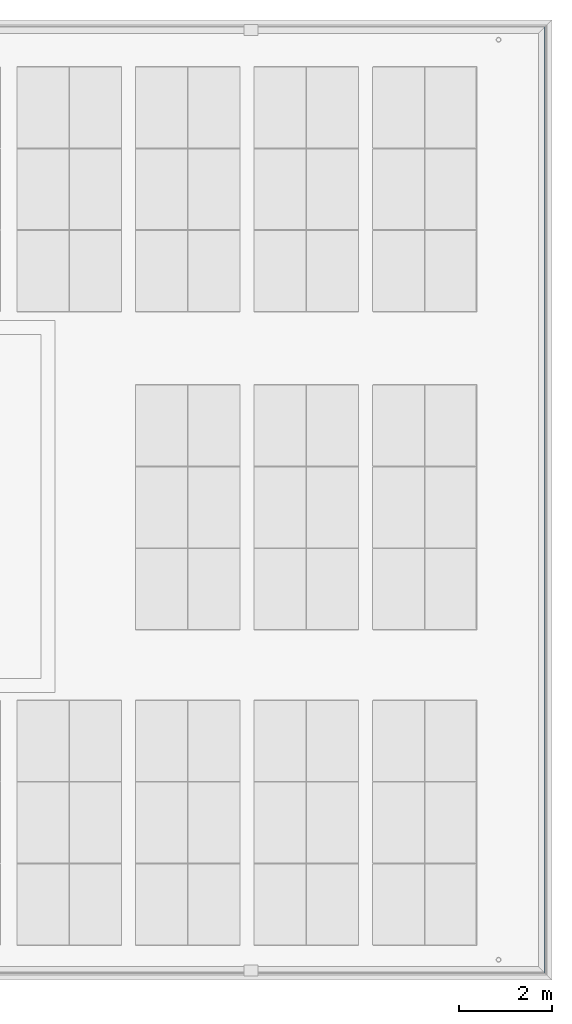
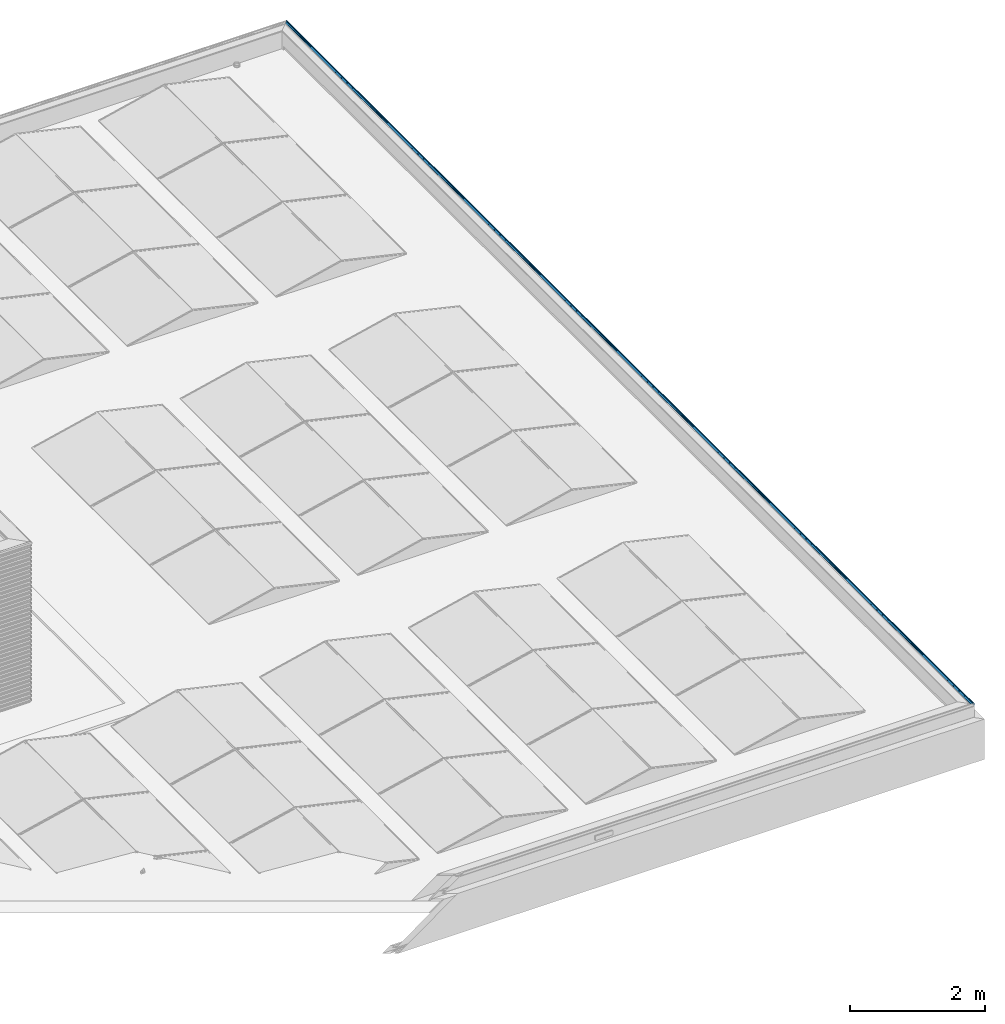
# One storey, part 44 of 63: 1 building element part, 1 element without a shape of its own.
"""IFC2X3 building model written with IfcOpenShell, lengths in millimetres."""

import ifcopenshell
import ifcopenshell.guid

model = None  # the IFC model being written
_history = None  # IfcOwnerHistory: only IFC2X3 demands one
_inside = {}  # id of a spatial element -> (the spatial element, [elements in it])
_under = {}  # id of a project, library or spatial element -> (it, [spatial elements below it])
_declared = {}  # id of a project -> (the project, [libraries it declares])
_typed = {}  # id of a type object -> (the type object, [elements of that type])
_made_of = {}  # id of a material, layer set ... -> (it, [elements and type objects made of it])


def new_model(schema):
    """Start an empty IFC model of exactly this schema.

    Asked for "IFC4X3", IfcOpenShell would pick the latest addendum, in which some entities
    have other attributes; the version numbers below select the first issue.
    IFC2X3 requires an IfcOwnerHistory on every rooted entity: one is made here for all.
    """
    global model, _history
    if schema == "IFC4X3":
        model = ifcopenshell.file(schema_version=(4, 3, 0, 0))
    else:
        model = ifcopenshell.file(schema=schema)
    _inside.clear()
    _under.clear()
    _declared.clear()
    _typed.clear()
    _made_of.clear()
    _history = None
    if model.schema == "IFC2X3":
        org = make("IfcOrganization", Name="unknown")
        user = make(
            "IfcPersonAndOrganization",
            ThePerson=make("IfcPerson", FamilyName="unknown"),
            TheOrganization=org,
        )
        app = make(
            "IfcApplication",
            ApplicationDeveloper=org,
            Version="unknown",
            ApplicationFullName="unknown",
            ApplicationIdentifier="unknown",
        )
        _history = make(
            "IfcOwnerHistory",
            OwningUser=user,
            OwningApplication=app,
            ChangeAction="ADDED",
            CreationDate=0,
        )
    return model


def make(cls, **values):
    """One entity of the class cls with the attributes given. An attribute that is None is left unset."""
    return model.create_entity(
        cls, **{name: value for name, value in values.items() if value is not None}
    )


def entity(cls, *values):
    """Any entity or typed value of the class cls, its attributes in the order of the schema. None: left unset."""
    e = model.create_entity(cls)
    for i, value in enumerate(values):
        if value is not None:
            e[i] = value
    return e


def rooted(cls, **values):
    """An entity with a GlobalId (a new one), such as an element, a storey or a relation."""
    return make(cls, GlobalId=ifcopenshell.guid.new(), OwnerHistory=_history, **values)


def si_unit(unit_type, name, prefix=None):
    """IfcSIUnit, for example si_unit("LENGTHUNIT", "METRE", prefix="MILLI")."""
    return make("IfcSIUnit", UnitType=unit_type, Prefix=prefix, Name=name)


def converted_unit(unit_type, name, factor, base, dimensions=None, offset=None):
    """IfcConversionBasedUnit, such as the inch: factor (a typed value) times the base unit."""
    return make(
        "IfcConversionBasedUnit"
        if offset is None
        else "IfcConversionBasedUnitWithOffset",
        ConversionOffset=offset,
        Dimensions=None
        if dimensions is None
        else entity("IfcDimensionalExponents", *dimensions),
        UnitType=unit_type,
        Name=name,
        ConversionFactor=make(
            "IfcMeasureWithUnit", ValueComponent=factor, UnitComponent=base
        ),
    )


def derived_unit(unit_type, elements):
    """IfcDerivedUnit: a product of units, each with its exponent."""
    return make(
        "IfcDerivedUnit",
        Elements=[
            make("IfcDerivedUnitElement", Unit=unit, Exponent=power)
            for unit, power in elements
        ],
        UnitType=unit_type,
    )


def money_unit(currency):
    """IfcMonetaryUnit."""
    return make("IfcMonetaryUnit", Currency=currency)


def assignment(units):
    """IfcUnitAssignment: the units of a project."""
    return None if units is None else make("IfcUnitAssignment", Units=units)


def point(xyz):
    """IfcCartesianPoint."""
    return None if xyz is None else make("IfcCartesianPoint", Coordinates=xyz)


def direction(xyz):
    """IfcDirection."""
    return None if xyz is None else make("IfcDirection", DirectionRatios=xyz)


def frame(location, z_axis=None, x_axis=None):
    """IfcAxis2Placement3D, a coordinate frame: its origin and axes. An axis left out is left unset."""
    return make(
        "IfcAxis2Placement3D",
        Location=point(location),
        Axis=direction(z_axis),
        RefDirection=direction(x_axis),
    )


def origin_with_axes():
    """The frame at (0, 0, 0) with the z axis (0, 0, 1) and the x axis (1, 0, 0) written out."""
    return frame((0.0, 0.0, 0.0), z_axis=(0.0, 0.0, 1.0), x_axis=(1.0, 0.0, 0.0))


def place(relative_to, where):
    """IfcLocalPlacement: puts the frame where relative to a parent placement (None: the world)."""
    return make(
        "IfcLocalPlacement", PlacementRelTo=relative_to, RelativePlacement=where
    )


def context(
    kind, dimensions, precision=None, world=None, true_north=None, identifier=None
):
    """IfcGeometricRepresentationContext, for example the 3D "Model" context."""
    return make(
        "IfcGeometricRepresentationContext",
        ContextIdentifier=identifier,
        ContextType=kind,
        CoordinateSpaceDimension=dimensions,
        Precision=precision,
        WorldCoordinateSystem=world,
        TrueNorth=true_north,
    )


def subcontext(parent, identifier, kind, view, scale=None):
    """IfcGeometricRepresentationSubContext, for example "Body" below "Model"."""
    return make(
        "IfcGeometricRepresentationSubContext",
        ContextIdentifier=identifier,
        ContextType=kind,
        ParentContext=parent,
        TargetScale=scale,
        TargetView=view,
    )


def project(units=None, contexts=None):
    """IfcProject with its units and contexts."""
    return rooted(
        "IfcProject",
        Name="project",
        RepresentationContexts=contexts,
        UnitsInContext=assignment(units),
    )


def spatial(cls, under=None, at=None, **own):
    """A site, building, storey or space (cls), placed at a placement, below another one or the project."""
    s = rooted(cls, ObjectPlacement=at, **own)
    if under is not None:
        _under.setdefault(under.id(), (under, []))[1].append(s)
    return s


def faces_of(points, faces, orient=None, outer=None):
    """IfcFace entities. A face is a list of loops; a loop is a list of indices into points, from 0.

    orient and outer hold one flag for each loop. By default every Orientation is true, the
    first loop of a face is its IfcFaceOuterBound and the others are IfcFaceBound.
    """
    made = []
    for i, loops in enumerate(faces):
        bounds = []
        for j, loop in enumerate(loops):
            is_outer = j == 0 if outer is None else outer[i][j]
            bounds.append(
                make(
                    "IfcFaceOuterBound" if is_outer else "IfcFaceBound",
                    Bound=make("IfcPolyLoop", Polygon=[points[k] for k in loop]),
                    Orientation=True if orient is None else orient[i][j],
                )
            )
        made.append(make("IfcFace", Bounds=bounds))
    return made


def faceted_brep(points, faces, orient=None, outer=None, voids=None):
    """IfcFacetedBrep: a solid bounded by flat faces; with voids (closed shells), ...WithVoids."""
    shared = [point(p) for p in points]
    hull = make("IfcClosedShell", CfsFaces=faces_of(shared, faces, orient, outer))
    if voids is None:
        return make("IfcFacetedBrep", Outer=hull)
    return make(
        "IfcFacetedBrepWithVoids",
        Outer=hull,
        Voids=[
            make(cls, CfsFaces=faces_of(shared, fs, o, b)) for cls, fs, o, b in voids
        ],
    )


def shape(context_of_items, identifier, shape_type, items):
    """IfcShapeRepresentation: the items that make up one representation, for example the "Body"."""
    return make(
        "IfcShapeRepresentation",
        ContextOfItems=context_of_items,
        RepresentationIdentifier=identifier,
        RepresentationType=shape_type,
        Items=items,
    )


def material(Name=None, Category=None):
    """IfcMaterial."""
    return make("IfcMaterial", Name=Name, Category=Category)


def made_of(thing, what):
    """Note that an element or type object is made of a material, layer set ...; save() writes the relation."""
    if what is not None:
        _made_of.setdefault(what.id(), (what, []))[1].append(thing)
    return thing


def type_object(cls, material=None, **own):
    """A type object (cls), such as IfcWallType, which elements share."""
    return made_of(rooted(cls, **own), material)


def element(
    cls,
    number,
    at=None,
    inside=None,
    cuts=None,
    type_object=None,
    material=None,
    context=None,
    identifier="Body",
    shape_type=None,
    held_by="IfcProductDefinitionShape",
    body=None,
    shapes=None,
    **own,
):
    """One element of the class cls, such as IfcWall. Its Tag is "e" and its number.

    at: its placement. inside: the storey or other place that contains it. cuts: it is an
    opening in that element (IfcRelVoidsElement). A single representation is given by context,
    identifier, shape_type and body (its items); several are given by shapes. held_by: the class
    of the entity that holds the representations. save() writes the other relations.
    """
    e = rooted(cls, Tag="e%d" % number, ObjectPlacement=at, **own)
    if body is not None:
        shapes = [shape(context, identifier, shape_type, body)]
    if shapes is not None:
        e.Representation = make(held_by, Representations=shapes)
    if inside is not None:
        _inside.setdefault(inside.id(), (inside, []))[1].append(e)
    if cuts is not None:
        rooted(
            "IfcRelVoidsElement", RelatingBuildingElement=cuts, RelatedOpeningElement=e
        )
    if type_object is not None:
        _typed.setdefault(type_object.id(), (type_object, []))[1].append(e)
    return made_of(e, material)


def aggregate(whole, parts):
    """IfcRelAggregates: a whole, such as a stair, and the parts it consists of."""
    return rooted("IfcRelAggregates", RelatingObject=whole, RelatedObjects=parts)


def save(model, path):
    """Write the relations noted so far, then the file.

    IfcRelAggregates (storeys below a building ...), IfcRelContainedInSpatialStructure (elements
    in a storey), IfcRelDefinesByType, IfcRelAssociatesMaterial and IfcRelDeclares: one each for
    every whole, place, type object, material and project.
    """
    for whole, parts in _under.values():
        aggregate(whole, parts)
    for where, things in _inside.values():
        rooted(
            "IfcRelContainedInSpatialStructure",
            RelatedElements=things,
            RelatingStructure=where,
        )
    for kind, things in _typed.values():
        rooted("IfcRelDefinesByType", RelatedObjects=things, RelatingType=kind)
    for what, things in _made_of.values():
        rooted("IfcRelAssociatesMaterial", RelatedObjects=things, RelatingMaterial=what)
    for by, libraries in _declared.values():
        rooted("IfcRelDeclares", RelatingContext=by, RelatedDefinitions=libraries)
    model.write(path)


model = new_model("IFC2X3")

# Units and contexts
model_context = context("Model", 3, precision=0.01, world=origin_with_axes(), true_north=direction((0.0, 1.0)))
body_context = subcontext(model_context, "Body", "Model", "MODEL_VIEW")
ifc_project = project(units=[si_unit("LENGTHUNIT", "METRE", prefix="MILLI"), si_unit("AREAUNIT", "SQUARE_METRE"), si_unit("VOLUMEUNIT", "CUBIC_METRE"), converted_unit("PLANEANGLEUNIT", "DEGREE", entity("IfcPlaneAngleMeasure", 0.0174532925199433), si_unit("PLANEANGLEUNIT", "RADIAN"), dimensions=[0, 0, 0, 0, 0, 0, 0]), money_unit("EUR"), converted_unit("TIMEUNIT", "Year", entity("IfcTimeMeasure", 31557600.0), si_unit("TIMEUNIT", "SECOND"), dimensions=[0, 0, 1, 0, 0, 0, 0]), si_unit("MASSUNIT", "GRAM", prefix="KILO"), si_unit("THERMODYNAMICTEMPERATUREUNIT", "DEGREE_CELSIUS"), si_unit("LUMINOUSINTENSITYUNIT", "LUMEN"), si_unit("ENERGYUNIT", "JOULE", prefix="MEGA"), derived_unit("THERMALCONDUCTANCEUNIT", [(si_unit("POWERUNIT", "WATT"), 1), (si_unit("LENGTHUNIT", "METRE"), -1), (si_unit("THERMODYNAMICTEMPERATUREUNIT", "KELVIN"), -1)]), derived_unit("SPECIFICHEATCAPACITYUNIT", [(si_unit("ENERGYUNIT", "JOULE"), 1), (si_unit("MASSUNIT", "GRAM", prefix="KILO"), -1), (si_unit("THERMODYNAMICTEMPERATUREUNIT", "KELVIN"), -1)]), derived_unit("MASSDENSITYUNIT", [(si_unit("MASSUNIT", "GRAM", prefix="KILO"), 1), (si_unit("VOLUMEUNIT", "CUBIC_METRE"), -1)])], contexts=[model_context])

# Site, building, storey
site_placement = place(None, origin_with_axes())
site = spatial("IfcSite", under=ifc_project, at=site_placement, Name="<site naam>", CompositionType="ELEMENT")
building_placement = place(site_placement, origin_with_axes())
building = spatial("IfcBuilding", under=site, at=building_placement, Name="<Naam gebouw>", CompositionType="ELEMENT")
storey_placement = place(building_placement, frame((0.0, 0.0, 12770.0), z_axis=(0.0, 0.0, 1.0), x_axis=(1.0, 0.0, 0.0)))
storey = spatial("IfcBuildingStorey", under=building, at=storey_placement, Name="04 4e verdieping", CompositionType="ELEMENT", Elevation=12770.0)

# Beam, building element part
beam_type = type_object("IfcBeamType", Name="Aluminium daktrim 45 x 250", PredefinedType="BEAM")
beam_placement = place(storey_placement, frame((70369.99999757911, -324.9999975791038, -14.59999999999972), z_axis=(0.0, 0.0, 1.0), x_axis=(1.0, 0.0, 0.0)))
beam = element("IfcBeam", 1, at=beam_placement, inside=storey, type_object=beam_type, Name="47_Balk_Aluminium", ObjectType="BEAM")
ifc_material = material(Name="aluminium")
building_element_part_placement = place(beam_placement, origin_with_axes())
building_element_part = element("IfcBuildingElementPart", 2, at=building_element_part_placement, material=ifc_material, Name="aluminium", context=body_context, shape_type="Brep", body=[
    faceted_brep([(-121.4991945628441, 20528.50080059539, 294.0656451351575), (-122.2068758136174, 20527.79311934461, 293.7721760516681), (-122.2068758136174, 122.2068758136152, 293.7721760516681), (-121.4991945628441, 121.4991945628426, 294.0656451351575), (-110.9991946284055, 20539.00080052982, 294.0656451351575), (-110.2920878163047, 20539.70790734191, 293.7727519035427), (-109.9991945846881, 20540.00080057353, 293.0656450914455), (-109.9991945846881, 20540.00080057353, 250.0656451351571), (-110.2920878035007, 20539.70790735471, 249.3585383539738), (-110.9991945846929, 20539.00080057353, 249.0656451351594), (-111.4991731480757, 20538.50082201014, 249.1996073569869), (-117.6977781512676, 20532.30221700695, 252.7781690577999), (-117.9774779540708, 20532.02251720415, 253.1426342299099), (-117.9175736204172, 20532.08242153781, 253.598132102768), (-117.5531500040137, 20532.44684515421, 253.8778860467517), (-117.0976432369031, 20532.90235192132, 253.8180493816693), (-113.8976320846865, 20536.10236307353, 251.9718951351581), (-113.8976320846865, 20536.10236307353, 252.565645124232), (-113.7511854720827, 20536.24880968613, 252.9191985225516), (-113.3976320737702, 20536.60236308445, 253.0656451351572), (-113.1984133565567, 20536.80158180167, 253.0656451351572), (-112.8448599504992, 20537.15513520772, 252.9191985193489), (-112.698413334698, 20537.30158182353, 252.5656451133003), (-112.698413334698, 20537.30158182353, 251.278535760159), (-111.948916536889, 20538.05107862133, 250.8452329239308), (-111.6116899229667, 20538.38830523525, 250.7856033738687), (-111.3150643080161, 20538.68493085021, 250.9567486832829), (-111.197910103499, 20538.80208505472, 251.278544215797), (-111.1984133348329, 20538.80158182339, 281.0656535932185), (-111.3448629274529, 20538.65513223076, 281.419201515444), (-111.6984133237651, 20538.30158183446, 281.5656451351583), (-112.1984133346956, 20537.80158182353, 281.5656451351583), (-112.5519667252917, 20537.44802843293, 281.4191985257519), (-112.698413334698, 20537.30158182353, 281.0656451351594), (-112.698413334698, 20537.30158182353, 279.5656451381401), (-112.8448599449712, 20537.15513521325, 279.212091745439), (-113.1984133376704, 20536.80158182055, 279.065645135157), (-114.9718508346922, 20535.02814432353, 279.065645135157), (-120.1773366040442, 20529.82265855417, 275.7461395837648), (-120.3116945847, 20529.68830057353, 275.4250201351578), (-120.5695070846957, 20529.43048807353, 275.3156451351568), (-120.8898195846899, 20529.11017557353, 275.448457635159), (-121.5401955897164, 20528.45979956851, 275.2060759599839), (-121.6945070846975, 20528.30548807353, 274.897676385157), (-121.9640383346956, 20528.03595682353, 274.8078326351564), (-122.2726320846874, 20527.72736307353, 274.9640826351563), (-128.1981216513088, 20521.80187350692, 274.066030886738), (-154.6486035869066, 20495.35139157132, 274.0656451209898), (-154.8951277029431, 20495.10486745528, 274.1677553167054), (-154.9972414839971, 20495.00275367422, 274.4142779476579), (-154.8947842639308, 20495.10521089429, 274.6611444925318), (-154.6476320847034, 20495.35236307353, 274.7629107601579), (-149.9991945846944, 20500.00080057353, 275.2648638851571), (-149.6984133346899, 20500.30158182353, 275.565645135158), (-147.2999758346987, 20502.70001932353, 275.565645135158), (-146.9991945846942, 20503.00080057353, 275.2648638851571), (-143.9991945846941, 20506.00080057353, 275.2648638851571), (-143.6984133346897, 20506.30158182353, 275.565645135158), (-141.2999758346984, 20508.70001932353, 275.565645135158), (-140.999194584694, 20509.00080057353, 275.2648638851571), (-137.9991945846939, 20512.00080057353, 275.2648638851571), (-137.6984133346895, 20512.30158182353, 275.565645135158), (-135.2999758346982, 20514.70001932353, 275.565645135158), (-134.9991945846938, 20515.00080057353, 275.2648638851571), (-131.9991945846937, 20518.00080057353, 275.2648638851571), (-131.6984133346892, 20518.30158182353, 275.565645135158), (-129.299975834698, 20520.70001932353, 275.565645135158), (-128.9991945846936, 20521.00080057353, 275.2648638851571), (-128.1984107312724, 20521.80158442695, 275.2648638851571), (-120.0158638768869, 20529.98413128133, 277.1388822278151), (-113.4645529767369, 20536.53544218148, 282.3873432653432), (-112.6841977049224, 20537.3157974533, 282.7641787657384), (-112.1970030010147, 20537.80299215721, 282.7648658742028), (-111.490808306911, 20538.50918685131, 283.0582564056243), (-111.1984133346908, 20538.80158182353, 283.7648638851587), (-111.1984133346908, 20538.80158182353, 292.3664263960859), (-111.3448599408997, 20538.65513521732, 292.719979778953), (-111.6984133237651, 20538.30158183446, 292.8664263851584), (-120.7999758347, 20529.20001932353, 292.8664263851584), (-121.1535292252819, 20528.84646593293, 292.7199797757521), (-121.2999758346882, 20528.70001932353, 292.3664263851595), (-121.2999758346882, 20528.70001932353, 290.6652544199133), (-121.4748532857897, 20528.52514187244, 290.2428198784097), (-121.8971453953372, 20528.10284976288, 290.0675987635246), (-122.3197220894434, 20527.68027306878, 290.2421324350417), (-122.4952867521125, 20527.5047084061, 290.6642818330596), (-122.4991919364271, 20527.50080322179, 293.0640177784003), (-122.4991919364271, 122.4991919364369, 293.0640177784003), (-122.4952867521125, 122.4952867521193, 290.6642818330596), (-122.3197220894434, 122.3197220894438, 290.2421324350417), (-121.8971453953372, 121.8971453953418, 290.0675987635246), (-121.4748532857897, 121.4748532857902, 290.2428198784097), (-121.2999758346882, 121.2999758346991, 290.6652544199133), (-121.2999758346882, 121.2999758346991, 292.3664263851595), (-121.1535292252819, 121.1535292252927, 292.7199797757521), (-120.7999758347, 120.7999758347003, 292.8664263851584), (-111.6984133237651, 111.6984133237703, 292.8664263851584), (-111.3448599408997, 111.344859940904, 292.719979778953), (-111.1984133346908, 111.1984133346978, 292.3664263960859), (-111.1984133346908, 111.1984133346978, 283.7648638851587), (-111.490808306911, 111.490808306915, 283.0582564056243), (-112.1970030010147, 112.197003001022, 282.7648658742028), (-112.6841977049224, 112.6841977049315, 282.7641787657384), (-113.4645529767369, 113.4645529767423, 282.3873432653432), (-120.0158638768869, 120.0158638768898, 277.1388822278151), (-128.1984107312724, 128.1984107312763, 275.2648638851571), (-128.9991945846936, 128.9991945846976, 275.2648638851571), (-129.299975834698, 129.2999758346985, 275.565645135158), (-131.6984133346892, 131.6984133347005, 275.565645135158), (-131.9991945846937, 131.9991945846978, 275.2648638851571), (-134.9991945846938, 134.999194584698, 275.2648638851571), (-135.2999758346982, 135.2999758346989, 275.565645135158), (-137.6984133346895, 137.6984133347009, 275.565645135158), (-137.9991945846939, 137.9991945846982, 275.2648638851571), (-140.999194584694, 140.999194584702, 275.2648638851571), (-141.2999758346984, 141.2999758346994, 275.565645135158), (-143.6984133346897, 143.6984133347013, 275.565645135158), (-143.9991945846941, 143.9991945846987, 275.2648638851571), (-146.9991945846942, 146.9991945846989, 275.2648638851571), (-147.2999758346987, 147.2999758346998, 275.565645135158), (-149.6984133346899, 149.6984133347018, 275.565645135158), (-149.9991945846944, 149.9991945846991, 275.2648638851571), (-154.6476320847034, 154.6476320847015, 274.7629107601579), (-154.8947842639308, 154.8947842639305, 274.6611444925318), (-154.9972414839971, 154.9972414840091, 274.4142779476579), (-154.8951277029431, 154.8951277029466, 274.1677553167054), (-154.6486035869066, 154.648603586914, 274.0656451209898), (-128.1981216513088, 128.1981216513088, 274.066030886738), (-122.2726320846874, 122.2726320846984, 274.9640826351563), (-121.9640383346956, 121.9640383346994, 274.8078326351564), (-121.6945070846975, 121.6945070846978, 274.897676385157), (-121.5401955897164, 121.5401955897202, 275.2060759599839), (-120.8898195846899, 120.8898195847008, 275.448457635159), (-120.5695070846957, 120.5695070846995, 275.3156451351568), (-120.3116945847, 120.3116945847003, 275.4250201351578), (-120.1773366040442, 120.1773366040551, 275.7461395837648), (-114.9718508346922, 114.9718508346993, 279.065645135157), (-113.1984133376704, 113.1984133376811, 279.065645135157), (-112.8448599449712, 112.8448599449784, 279.212091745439), (-112.698413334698, 112.6984133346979, 279.5656451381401), (-112.698413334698, 112.6984133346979, 281.0656451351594), (-112.5519667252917, 112.5519667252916, 281.4191985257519), (-112.1984133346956, 112.1984133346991, 281.5656451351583), (-111.6984133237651, 111.6984133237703, 281.5656451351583), (-111.3448629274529, 111.3448629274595, 281.419201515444), (-111.1984133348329, 111.1984133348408, 281.0656535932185), (-111.197910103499, 111.1979101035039, 251.278544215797), (-111.3150643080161, 111.3150643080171, 250.9567486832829), (-111.6116899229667, 111.6116899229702, 250.7856033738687), (-111.948916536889, 111.9489165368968, 250.8452329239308), (-112.698413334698, 112.6984133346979, 251.278535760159), (-112.698413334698, 112.6984133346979, 252.5656451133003), (-112.8448599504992, 112.8448599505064, 252.9191985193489), (-113.1984133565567, 113.1984133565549, 253.0656451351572), (-113.3976320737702, 113.397632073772, 253.0656451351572), (-113.7511854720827, 113.7511854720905, 252.9191985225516), (-113.8976320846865, 113.8976320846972, 252.565645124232), (-113.8976320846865, 113.8976320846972, 251.9718951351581), (-117.0976432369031, 117.0976432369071, 253.8180493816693), (-117.5531500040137, 117.5531500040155, 253.8778860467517), (-117.9175736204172, 117.9175736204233, 253.598132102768), (-117.9774779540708, 117.977477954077, 253.1426342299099), (-117.6977781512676, 117.6977781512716, 252.7781690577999), (-111.4991731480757, 111.4991731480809, 249.1996073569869), (-110.9991945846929, 110.9991945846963, 249.0656451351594), (-110.2920878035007, 110.2920878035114, 249.3585383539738), (-109.9991945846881, 109.9991945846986, 250.0656451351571), (-109.9991945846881, 109.9991945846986, 293.0656450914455), (-110.2920878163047, 110.2920878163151, 293.7727519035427), (-110.9991946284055, 110.9991946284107, 294.0656451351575)], [[[0, 1, 2, 3]], [[0, 4, 5, 6, 7, 8, 9, 10, 11, 12, 13, 14, 15, 16, 17, 18, 19, 20, 21, 22, 23, 24, 25, 26, 27, 28, 29, 30, 31, 32, 33, 34, 35, 36, 37, 38, 39, 40, 41, 42, 43, 44, 45, 46, 47, 48, 49, 50, 51, 52, 53, 54, 55, 56, 57, 58, 59, 60, 61, 62, 63, 64, 65, 66, 67, 68, 69, 70, 71, 72, 73, 74, 75, 76, 77, 78, 79, 80, 81, 82, 83, 84, 85, 86, 1]], [[1, 86, 87, 2]], [[3, 2, 87, 88, 89, 90, 91, 92, 93, 94, 95, 96, 97, 98, 99, 100, 101, 102, 103, 104, 105, 106, 107, 108, 109, 110, 111, 112, 113, 114, 115, 116, 117, 118, 119, 120, 121, 122, 123, 124, 125, 126, 127, 128, 129, 130, 131, 132, 133, 134, 135, 136, 137, 138, 139, 140, 141, 142, 143, 144, 145, 146, 147, 148, 149, 150, 151, 152, 153, 154, 155, 156, 157, 158, 159, 160, 161, 162, 163, 164, 165, 166, 167, 168, 169]], [[4, 0, 3, 169]], [[5, 4, 169, 168]], [[6, 5, 168, 167]], [[7, 6, 167, 166]], [[8, 7, 166, 165]], [[9, 8, 165, 164]], [[10, 9, 164, 163]], [[11, 10, 163, 162]], [[12, 11, 162, 161]], [[13, 12, 161, 160]], [[14, 13, 160, 159]], [[15, 14, 159, 158]], [[16, 15, 158, 157]], [[17, 16, 157, 156]], [[18, 17, 156, 155]], [[19, 18, 155, 154]], [[20, 19, 154, 153]], [[21, 20, 153, 152]], [[22, 21, 152, 151]], [[23, 22, 151, 150]], [[24, 23, 150, 149]], [[25, 24, 149, 148]], [[26, 25, 148, 147]], [[27, 26, 147, 146]], [[28, 27, 146, 145]], [[29, 28, 145, 144]], [[30, 29, 144, 143]], [[31, 30, 143, 142]], [[32, 31, 142, 141]], [[33, 32, 141, 140]], [[34, 33, 140, 139]], [[35, 34, 139, 138]], [[36, 35, 138, 137]], [[37, 36, 137, 136]], [[38, 37, 136, 135]], [[39, 38, 135, 134]], [[40, 39, 134, 133]], [[41, 40, 133, 132]], [[42, 41, 132, 131]], [[43, 42, 131, 130]], [[44, 43, 130, 129]], [[45, 44, 129, 128]], [[46, 45, 128, 127]], [[47, 46, 127, 126]], [[48, 47, 126, 125]], [[49, 48, 125, 124]], [[50, 49, 124, 123]], [[51, 50, 123, 122]], [[52, 51, 122, 121]], [[53, 52, 121, 120]], [[54, 53, 120, 119]], [[55, 54, 119, 118]], [[56, 55, 118, 117]], [[57, 56, 117, 116]], [[58, 57, 116, 115]], [[59, 58, 115, 114]], [[60, 59, 114, 113]], [[61, 60, 113, 112]], [[62, 61, 112, 111]], [[63, 62, 111, 110]], [[64, 63, 110, 109]], [[65, 64, 109, 108]], [[66, 65, 108, 107]], [[67, 66, 107, 106]], [[68, 67, 106, 105]], [[69, 68, 105, 104]], [[70, 69, 104, 103]], [[71, 70, 103, 102]], [[72, 71, 102, 101]], [[73, 72, 101, 100]], [[74, 73, 100, 99]], [[75, 74, 99, 98]], [[76, 75, 98, 97]], [[77, 76, 97, 96]], [[78, 77, 96, 95]], [[79, 78, 95, 94]], [[80, 79, 94, 93]], [[81, 80, 93, 92]], [[82, 81, 92, 91]], [[83, 82, 91, 90]], [[84, 83, 90, 89]], [[85, 84, 89, 88]], [[86, 85, 88, 87]]]),
])
aggregate(beam, [building_element_part])

save(model, "model.ifc")
